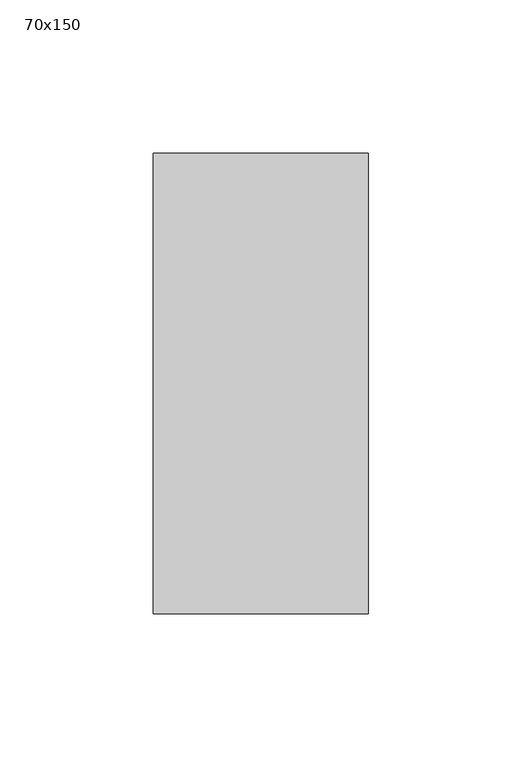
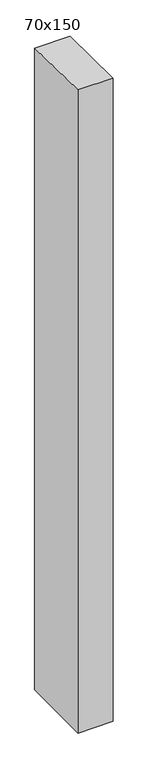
"""IFC4 building model written with IfcOpenShell, lengths in millimetres: member geometry, 長方形のマリオン : 70x150."""

from ifc_helpers import new_model, si_unit, frame, origin, place, context, project, spatial, polyline, outline, extrude, source, transform, mapped, element, save


def member_70x150_c22fedda(model_context):
    return source(origin(), model_context, "Body", "SweptSolid", [
        extrude(outline(polyline([(-75.0, 1.6445347), (75.0, -1.6445347), (75.0, -1354.3695227), (-75.0, -1354.3695227), (-75.0, 1.6445347)])), frame((-70.0, 0.0, 0.0), z_axis=(1.0, 0.0, 0.0), x_axis=(0.0, 1.0, 0.0)), (0.0, 0.0, 1.0), 70.0),
    ])


if __name__ == "__main__":
    model = new_model("IFC4")
    model_context = context("Model", 3, world=origin())
    ifc_project = project(units=[si_unit("LENGTHUNIT", "METRE", prefix="MILLI")], contexts=[model_context])
    site = spatial("IfcSite", under=ifc_project)
    building = spatial("IfcBuilding", under=site)
    placement = place(None, origin())
    member_70x150_shape = member_70x150_c22fedda(model_context)
    element("IfcMember", 1, ObjectType="長方形のマリオン : 70x150", at=placement, inside=building, context=model_context, shape_type="MappedRepresentation", body=[
        mapped(member_70x150_shape, transform((0.0, 0.0, 0.0), x_axis=(1.0, 0.0, 0.0), y_axis=(0.0, 1.0, 0.0), z_axis=(0.0, 0.0, 1.0))),
    ])
    save(model, "model.ifc")
